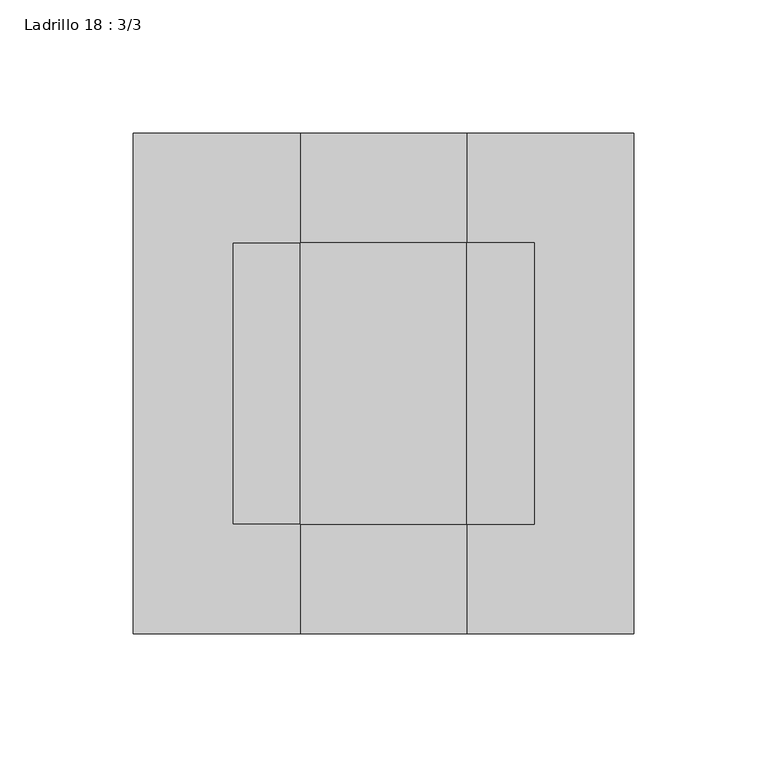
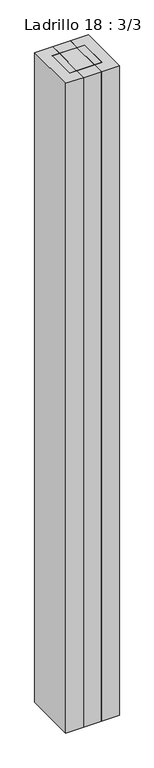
"""IFC4 building model written with IfcOpenShell, lengths in millimetres: column geometry, Ladrillo 18 : 3/3."""

from ifc_helpers import new_model, si_unit, origin, origin_with_axes, place, context, project, spatial, polyline, outline, extrude, source, transform, mapped, element, save


def ladrillo_18_3_3_ef613456(model_context):
    return source(origin(), model_context, "Body", "SweptSolid", [
        extrude(outline(polyline([(31.25, 52.75), (56.5, 52.75), (56.5, -52.75), (31.25, -52.75), (31.25, 52.75)])), origin_with_axes(), (0.0, 0.0, 1.0), 2400.0),
        extrude(outline(polyline([(31.25, 52.75), (31.25, -52.75), (-31.25, -52.75), (-31.25, 52.75), (31.25, 52.75)])), origin_with_axes(), (0.0, 0.0, 1.0), 2400.0),
        extrude(outline(polyline([(-31.25, 93.75), (-31.25, 52.75), (-56.5, 52.75), (-56.5, -52.75), (-31.25, -52.75), (-31.25, -93.75), (-93.75, -93.75), (-93.75, 93.75), (-31.25, 93.75)])), origin_with_axes(), (0.0, 0.0, 1.0), 2400.0),
        extrude(outline(polyline([(-31.25, 93.75), (31.25, 93.75), (31.25, 52.75), (-31.25, 52.75), (-31.25, 93.75)])), origin_with_axes(), (0.0, 0.0, 1.0), 2400.0),
        extrude(outline(polyline([(31.25, -52.75), (31.25, -93.75), (-31.25, -93.75), (-31.25, -52.75), (31.25, -52.75)])), origin_with_axes(), (0.0, 0.0, 1.0), 2400.0),
        extrude(outline(polyline([(31.25, 93.75), (93.75, 93.75), (93.75, -93.75), (31.25, -93.75), (31.25, -52.75), (56.5, -52.75), (56.5, 52.75), (31.25, 52.75), (31.25, 93.75)])), origin_with_axes(), (0.0, 0.0, 1.0), 2400.0),
        extrude(outline(polyline([(-31.25, 52.75), (-31.25, -52.75), (-56.5, -52.75), (-56.5, 52.75), (-31.25, 52.75)])), origin_with_axes(), (0.0, 0.0, 1.0), 2400.0),
    ])


if __name__ == "__main__":
    model = new_model("IFC4")
    model_context = context("Model", 3, world=origin())
    ifc_project = project(units=[si_unit("LENGTHUNIT", "METRE", prefix="MILLI")], contexts=[model_context])
    site = spatial("IfcSite", under=ifc_project)
    building = spatial("IfcBuilding", under=site)
    placement = place(None, origin())
    ladrillo_18_3_3_shape = ladrillo_18_3_3_ef613456(model_context)
    element("IfcColumn", 1, ObjectType="Ladrillo 18 : 3/3", at=placement, inside=building, context=model_context, shape_type="MappedRepresentation", body=[
        mapped(ladrillo_18_3_3_shape, transform((0.0, 0.0, 0.0), x_axis=(1.0, 0.0, 0.0), y_axis=(0.0, 1.0, 0.0), z_axis=(0.0, 0.0, 1.0))),
    ])
    save(model, "model.ifc")
